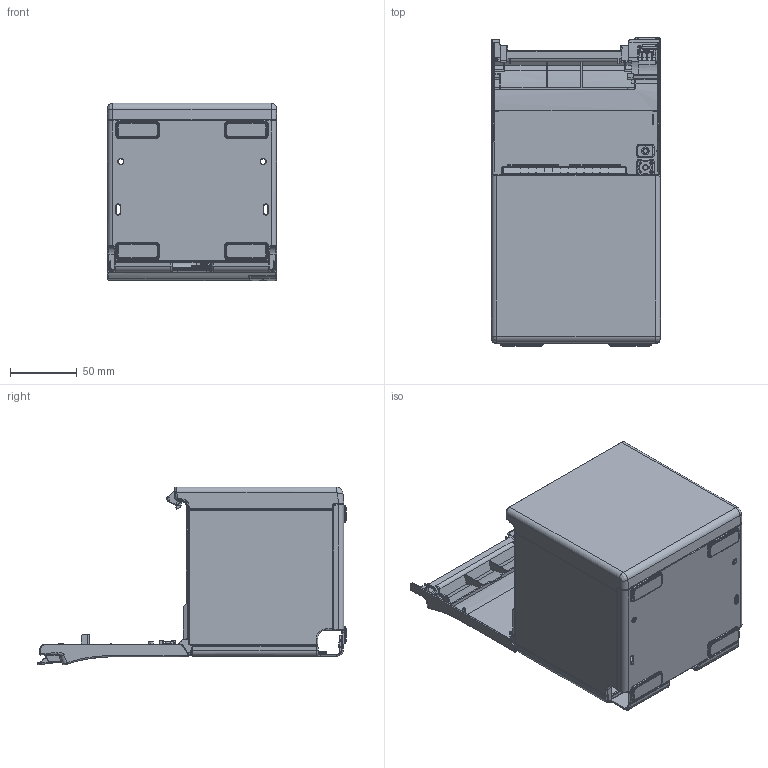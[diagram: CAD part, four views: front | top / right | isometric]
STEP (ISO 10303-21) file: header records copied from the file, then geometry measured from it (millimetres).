
FILE_DESCRIPTION((''),'2;1');
FILE_NAME('TM-M30II_TOP_OPEN_SW','2025-01-23T11:34:48',('0092109'),(''),'CREO PARAMETRIC BY PTC INC, 2022281','CREO PARAMETRIC BY PTC INC, 2022281','');
FILE_SCHEMA(('AUTOMOTIVE_DESIGN { 1 0 10303 214 1 1 1 1 }'));
Products named in the file (1): TM-M30II_TOP_OPEN_SW
Bounding box: 127 x 231.93 x 133.5 mm (x, y, z)
Surface area: 221545.6 mm2 (no closed solid volume)
Topology: 0 solids, 32 shells, 3058 faces, 8902 edges, 5767 vertices
Faces by surface type: plane 1272, cylinder 1192, torus 306, bspline 225, cone 51, sphere 11, extrusion 1
Entity records: 124652 total; most frequent: CARTESIAN_POINT 45271, ORIENTED_EDGE 16426, DIRECTION 16222, EDGE_CURVE 8902, VERTEX_POINT 5767, AXIS2_PLACEMENT_3D 5413, VECTOR 5396, LINE 5395
